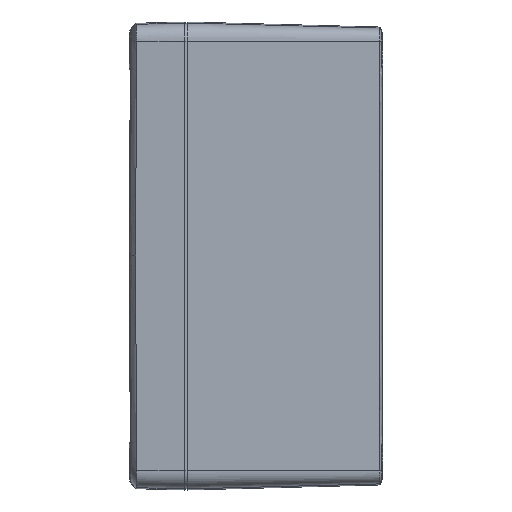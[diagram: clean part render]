
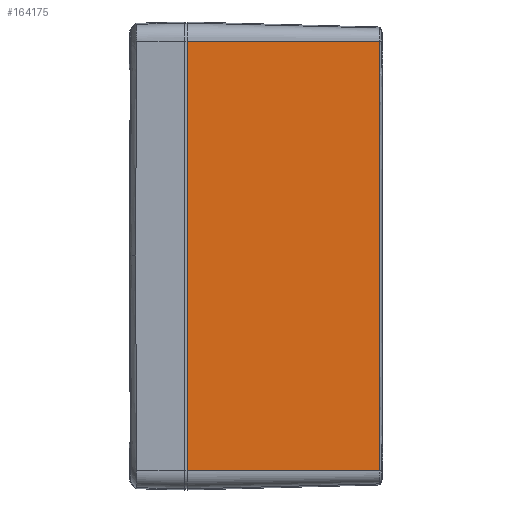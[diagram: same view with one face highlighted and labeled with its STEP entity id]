
A CAD part, left-side view. The second image highlights one B-rep face of the part: STEP entity #164175.
In plain terms, the highlighted planar face has unit normal (-1, -0.026, 0).
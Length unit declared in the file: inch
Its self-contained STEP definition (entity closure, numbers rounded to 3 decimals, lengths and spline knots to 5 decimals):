
#11093 = CARTESIAN_POINT ( 'NONE',  ( -4.49264, 0.04698, -2.98495 ) ) ;
#13386 = VERTEX_POINT ( 'NONE', #150470 ) ;
#13496 = CARTESIAN_POINT ( 'NONE',  ( -4.5625, 2.715, -2.98495 ) ) ;
#13534 = CARTESIAN_POINT ( 'NONE',  ( -4.5625, 2.715, -2.98495 ) ) ;
#15233 = VERTEX_POINT ( 'NONE', #13496 ) ;
#21142 = EDGE_CURVE ( 'NONE', #13386, #86467, #50084, .T. ) ;
#23634 = FACE_OUTER_BOUND ( 'NONE', #66187, .T. ) ;
#33258 = CARTESIAN_POINT ( 'NONE',  ( -4.5625, 2.715, -2.98495 ) ) ;
#50084 = LINE ( 'NONE', #75391, #139050 ) ;
#55595 = VECTOR ( 'NONE', #83094, 39.37008 ) ;
#57763 = LINE ( 'NONE', #33258, #55595 ) ;
#59328 = EDGE_CURVE ( 'NONE', #15233, #13386, #79343, .T. ) ;
#61809 = EDGE_CURVE ( 'NONE', #128052, #86467, #113487, .T. ) ;
#63975 = VECTOR ( 'NONE', #92887, 39.37008 ) ;
#66187 = EDGE_LOOP ( 'NONE', ( #165600, #99708, #160795, #118607 ) ) ;
#75247 = CARTESIAN_POINT ( 'NONE',  ( -4.49264, 0.04699, 0.99498 ) ) ;
#75391 = CARTESIAN_POINT ( 'NONE',  ( -4.5625, 2.715, 2.98495 ) ) ;
#79343 = LINE ( 'NONE', #13534, #63975 ) ;
#80126 = EDGE_CURVE ( 'NONE', #15233, #128052, #57763, .T. ) ;
#83094 = DIRECTION ( 'NONE',  ( 0.026, -1., 0. ) ) ;
#85868 = CARTESIAN_POINT ( 'NONE',  ( -4.49264, 0.04699, 2.98495 ) ) ;
#86467 = VERTEX_POINT ( 'NONE', #85868 ) ;
#92887 = DIRECTION ( 'NONE',  ( 0., 0., 1. ) ) ;
#99708 = ORIENTED_EDGE ( 'NONE', *, *, #61809, .T. ) ;
#113487 = B_SPLINE_CURVE_WITH_KNOTS ( 'NONE', 3,
 ( #11093, #114081, #75247, #140213 ),
 .UNSPECIFIED., .F., .F.,
 ( 4, 4 ),
 ( 0., 1. ),
 .UNSPECIFIED. ) ;
#114081 = CARTESIAN_POINT ( 'NONE',  ( -4.49264, 0.04699, -0.99498 ) ) ;
#117067 = AXIS2_PLACEMENT_3D ( 'NONE', #164600, #135922, #137575 ) ;
#118607 = ORIENTED_EDGE ( 'NONE', *, *, #59328, .F. ) ;
#126914 = DIRECTION ( 'NONE',  ( 0.026, -1., 0. ) ) ;
#128052 = VERTEX_POINT ( 'NONE', #159655 ) ;
#135922 = DIRECTION ( 'NONE',  ( -1., -0.026, 0. ) ) ;
#136762 = PLANE ( 'NONE',  #117067 ) ;
#137575 = DIRECTION ( 'NONE',  ( 0.026, -1., 0. ) ) ;
#139050 = VECTOR ( 'NONE', #126914, 39.37008 ) ;
#140213 = CARTESIAN_POINT ( 'NONE',  ( -4.49264, 0.04699, 2.98495 ) ) ;
#150470 = CARTESIAN_POINT ( 'NONE',  ( -4.5625, 2.715, 2.98495 ) ) ;
#159655 = CARTESIAN_POINT ( 'NONE',  ( -4.49264, 0.04698, -2.98495 ) ) ;
#160795 = ORIENTED_EDGE ( 'NONE', *, *, #21142, .F. ) ;
#164175 = ADVANCED_FACE ( 'Face2', ( #23634 ), #136762, .T. ) ;
#164600 = CARTESIAN_POINT ( 'NONE',  ( -4.5625, 2.715, -2.98495 ) ) ;
#165600 = ORIENTED_EDGE ( 'NONE', *, *, #80126, .T. ) ;
